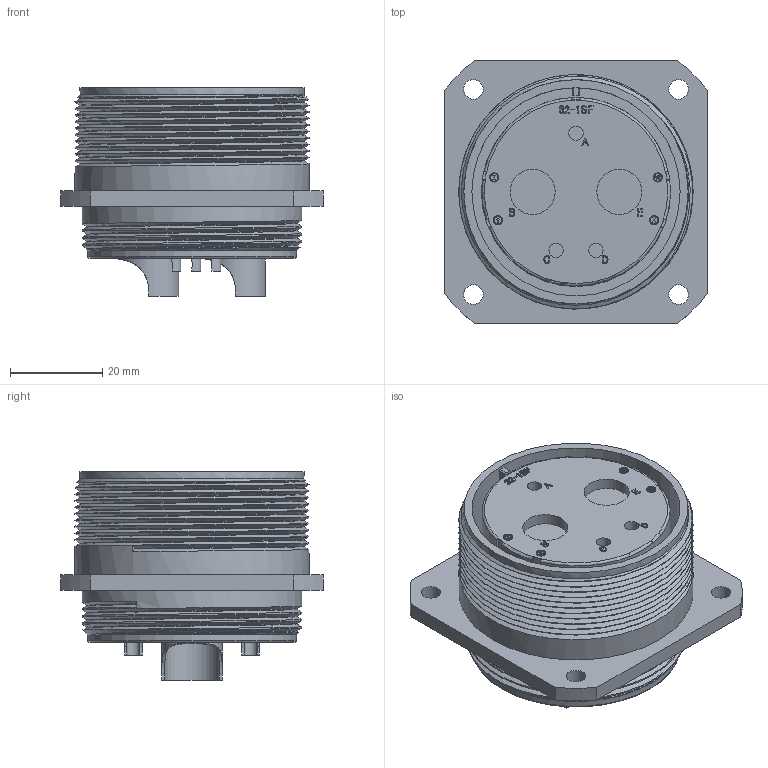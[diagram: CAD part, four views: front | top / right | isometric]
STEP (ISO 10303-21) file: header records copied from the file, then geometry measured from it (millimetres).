
FILE_DESCRIPTION (( 'STEP AP203' ), '1' );
FILE_NAME ('DMS3100A32-1S(D263).STEP', '2022-02-15T00:36:40', ( '' ), ( '' ), 'SwSTEP 2.0', 'SolidWorks 2018', '' );
FILE_SCHEMA (( 'CONFIG_CONTROL_DESIGN' ));
Length unit declared in the file: millimetre
Products named in the file (1): DMS3100A32-1S(D263)
Bounding box: 56.9 x 56.9 x 45.28 mm (x, y, z)
Volume: 61412.7 mm3; surface area: 23871.1 mm2
Topology: 1 solids, 1 shells, 630 faces, 1686 edges, 1125 vertices
Faces by surface type: plane 337, bspline 212, cylinder 77, torus 2, cone 2
Full cylindrical faces by diameter (mm): 1.6 x4, 2 x4, 2.85 x3, 3.1 x3, 3.79 x3, 3.9 x3, 4.27 x4, 9.78 x2, 11.79 x2, 13.03 x2, 38.1 x1, 41 x1, 42.93 x1, 45.12 x1, 45.3 x1, 47.58 x3, 48.6 x1, 50.76 x9
Entity records: 27962 total; most frequent: CARTESIAN_POINT 14197, ORIENTED_EDGE 3168, DIRECTION 2058, EDGE_CURVE 1584, VERTEX_POINT 1077, VECTOR 998, LINE 998, EDGE_LOOP 735
